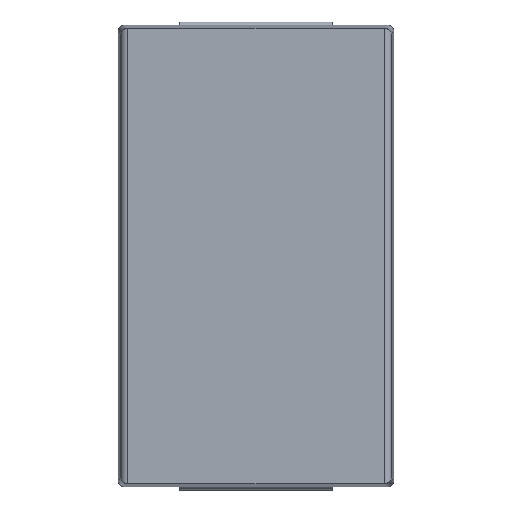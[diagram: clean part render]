
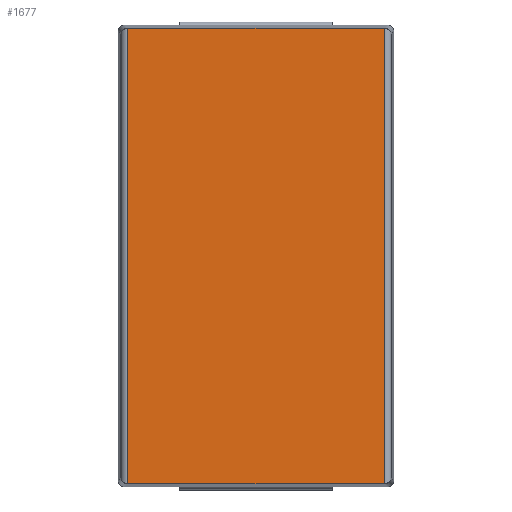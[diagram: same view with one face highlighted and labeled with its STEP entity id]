
A CAD part, front view. The second image highlights one B-rep face of the part: STEP entity #1677.
In plain terms, the highlighted planar face has unit normal (0, -1, 0).
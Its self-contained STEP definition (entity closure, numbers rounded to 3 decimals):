
#62 = FACE_OUTER_BOUND ( 'NONE', #2520, .T. ) ;
#122 = CARTESIAN_POINT ( 'NONE',  ( -2.008, -0.55, 3.552 ) ) ;
#167 = DIRECTION ( 'NONE',  ( 0., 1., 0. ) ) ;
#250 = VECTOR ( 'NONE', #1857, 1000. ) ;
#262 =( BOUNDED_CURVE ( )  B_SPLINE_CURVE ( 3, ( #2780, #3504, #122, #1585 ),
 .UNSPECIFIED., .F., .T. ) 
 B_SPLINE_CURVE_WITH_KNOTS ( ( 4, 4 ),
 ( 5.502, 5.581 ),
 .UNSPECIFIED. ) 
 CURVE ( )  GEOMETRIC_REPRESENTATION_ITEM ( )  RATIONAL_B_SPLINE_CURVE ( ( 1., 0.999, 0.999, 1. ) ) 
 REPRESENTATION_ITEM ( '' )  );
#373 = ORIENTED_EDGE ( 'NONE', *, *, #863, .T. ) ;
#408 = CARTESIAN_POINT ( 'NONE',  ( 2.01, -0.55, -3.552 ) ) ;
#455 = CARTESIAN_POINT ( 'NONE',  ( -2.002, -0.55, -3.552 ) ) ;
#532 = CARTESIAN_POINT ( 'NONE',  ( -2.01, -0.55, 3.552 ) ) ;
#549 = VECTOR ( 'NONE', #1510, 1000. ) ;
#628 = DIRECTION ( 'NONE',  ( 0., 0., 1. ) ) ;
#742 = LINE ( 'NONE', #4852, #250 ) ;
#804 = LINE ( 'NONE', #856, #549 ) ;
#856 = CARTESIAN_POINT ( 'NONE',  ( 2.01, -0.55, 3.552 ) ) ;
#863 = EDGE_CURVE ( 'NONE', #2228, #4662, #1757, .T. ) ;
#1140 = DIRECTION ( 'NONE',  ( -1., 0., 0. ) ) ;
#1216 = VERTEX_POINT ( 'NONE', #2382 ) ;
#1235 = EDGE_CURVE ( 'NONE', #4756, #1784, #4235, .T. ) ;
#1278 = VECTOR ( 'NONE', #3843, 1000. ) ;
#1410 = CARTESIAN_POINT ( 'NONE',  ( 2.01, -0.55, 3.552 ) ) ;
#1510 = DIRECTION ( 'NONE',  ( 0., 0., 1. ) ) ;
#1530 = CARTESIAN_POINT ( 'NONE',  ( 2.008, -0.55, -3.552 ) ) ;
#1585 = CARTESIAN_POINT ( 'NONE',  ( -2.01, -0.55, 3.552 ) ) ;
#1639 = EDGE_CURVE ( 'NONE', #2069, #1216, #3482, .T. ) ;
#1677 = ADVANCED_FACE ( 'NONE', ( #62 ), #3086, .F. ) ;
#1702 = CARTESIAN_POINT ( 'NONE',  ( 0., -0.55, 0. ) ) ;
#1753 = CARTESIAN_POINT ( 'NONE',  ( -2.002, -0.55, -3.552 ) ) ;
#1757 =( BOUNDED_CURVE ( )  B_SPLINE_CURVE ( 3, ( #1410, #3704, #2185, #4799 ),
 .UNSPECIFIED., .F., .T. ) 
 B_SPLINE_CURVE_WITH_KNOTS ( ( 4, 4 ),
 ( 0.702, 0.782 ),
 .UNSPECIFIED. ) 
 CURVE ( )  GEOMETRIC_REPRESENTATION_ITEM ( )  RATIONAL_B_SPLINE_CURVE ( ( 1., 0.999, 0.999, 1. ) ) 
 REPRESENTATION_ITEM ( '' )  );
#1768 = VECTOR ( 'NONE', #1140, 1000. ) ;
#1784 = VERTEX_POINT ( 'NONE', #3357 ) ;
#1857 = DIRECTION ( 'NONE',  ( 1., 0., 0. ) ) ;
#1860 = EDGE_CURVE ( 'NONE', #1784, #2117, #2467, .T. ) ;
#1927 = CARTESIAN_POINT ( 'NONE',  ( 2.005, -0.55, -3.552 ) ) ;
#1967 = ORIENTED_EDGE ( 'NONE', *, *, #1976, .F. ) ;
#1976 = EDGE_CURVE ( 'NONE', #4206, #4662, #742, .T. ) ;
#2069 = VERTEX_POINT ( 'NONE', #4585 ) ;
#2101 = CARTESIAN_POINT ( 'NONE',  ( -2.005, -0.55, -3.552 ) ) ;
#2117 = VERTEX_POINT ( 'NONE', #455 ) ;
#2185 = CARTESIAN_POINT ( 'NONE',  ( 2.005, -0.55, 3.552 ) ) ;
#2228 = VERTEX_POINT ( 'NONE', #3494 ) ;
#2334 = CARTESIAN_POINT ( 'NONE',  ( -2.01, -0.55, -3.552 ) ) ;
#2382 = CARTESIAN_POINT ( 'NONE',  ( 2.01, -0.55, -3.552 ) ) ;
#2462 = CARTESIAN_POINT ( 'NONE',  ( 2.002, -0.55, 3.552 ) ) ;
#2467 =( BOUNDED_CURVE ( )  B_SPLINE_CURVE ( 3, ( #4384, #4717, #2101, #1753 ),
 .UNSPECIFIED., .F., .T. ) 
 B_SPLINE_CURVE_WITH_KNOTS ( ( 4, 4 ),
 ( 0.702, 0.782 ),
 .UNSPECIFIED. ) 
 CURVE ( )  GEOMETRIC_REPRESENTATION_ITEM ( )  RATIONAL_B_SPLINE_CURVE ( ( 1., 0.999, 0.999, 1. ) ) 
 REPRESENTATION_ITEM ( '' )  );
#2520 = EDGE_LOOP ( 'NONE', ( #4392, #3607, #2552, #373, #1967, #2589, #3464, #3777 ) ) ;
#2528 = EDGE_CURVE ( 'NONE', #2069, #2117, #4548, .T. ) ;
#2552 = ORIENTED_EDGE ( 'NONE', *, *, #4644, .T. ) ;
#2589 = ORIENTED_EDGE ( 'NONE', *, *, #2834, .T. ) ;
#2780 = CARTESIAN_POINT ( 'NONE',  ( -2.002, -0.55, 3.552 ) ) ;
#2834 = EDGE_CURVE ( 'NONE', #4206, #4756, #262, .T. ) ;
#3086 = PLANE ( 'NONE',  #4289 ) ;
#3114 = CARTESIAN_POINT ( 'NONE',  ( -2.002, -0.55, 3.552 ) ) ;
#3357 = CARTESIAN_POINT ( 'NONE',  ( -2.01, -0.55, -3.552 ) ) ;
#3464 = ORIENTED_EDGE ( 'NONE', *, *, #1235, .T. ) ;
#3482 =( BOUNDED_CURVE ( )  B_SPLINE_CURVE ( 3, ( #3795, #1927, #1530, #408 ),
 .UNSPECIFIED., .F., .T. ) 
 B_SPLINE_CURVE_WITH_KNOTS ( ( 4, 4 ),
 ( 5.502, 5.581 ),
 .UNSPECIFIED. ) 
 CURVE ( )  GEOMETRIC_REPRESENTATION_ITEM ( )  RATIONAL_B_SPLINE_CURVE ( ( 1., 0.999, 0.999, 1. ) ) 
 REPRESENTATION_ITEM ( '' )  );
#3494 = CARTESIAN_POINT ( 'NONE',  ( 2.01, -0.55, 3.552 ) ) ;
#3504 = CARTESIAN_POINT ( 'NONE',  ( -2.005, -0.55, 3.552 ) ) ;
#3607 = ORIENTED_EDGE ( 'NONE', *, *, #1639, .T. ) ;
#3704 = CARTESIAN_POINT ( 'NONE',  ( 2.008, -0.55, 3.552 ) ) ;
#3777 = ORIENTED_EDGE ( 'NONE', *, *, #1860, .T. ) ;
#3795 = CARTESIAN_POINT ( 'NONE',  ( 2.002, -0.55, -3.552 ) ) ;
#3843 = DIRECTION ( 'NONE',  ( 0., 0., -1. ) ) ;
#4206 = VERTEX_POINT ( 'NONE', #3114 ) ;
#4222 = CARTESIAN_POINT ( 'NONE',  ( 0., -0.55, -3.552 ) ) ;
#4235 = LINE ( 'NONE', #2334, #1278 ) ;
#4289 = AXIS2_PLACEMENT_3D ( 'NONE', #1702, #167, #628 ) ;
#4384 = CARTESIAN_POINT ( 'NONE',  ( -2.01, -0.55, -3.552 ) ) ;
#4392 = ORIENTED_EDGE ( 'NONE', *, *, #2528, .F. ) ;
#4548 = LINE ( 'NONE', #4222, #1768 ) ;
#4585 = CARTESIAN_POINT ( 'NONE',  ( 2.002, -0.55, -3.552 ) ) ;
#4644 = EDGE_CURVE ( 'NONE', #1216, #2228, #804, .T. ) ;
#4662 = VERTEX_POINT ( 'NONE', #2462 ) ;
#4717 = CARTESIAN_POINT ( 'NONE',  ( -2.008, -0.55, -3.552 ) ) ;
#4756 = VERTEX_POINT ( 'NONE', #532 ) ;
#4799 = CARTESIAN_POINT ( 'NONE',  ( 2.002, -0.55, 3.552 ) ) ;
#4852 = CARTESIAN_POINT ( 'NONE',  ( 0., -0.55, 3.552 ) ) ;
